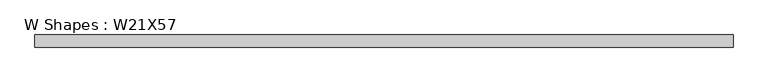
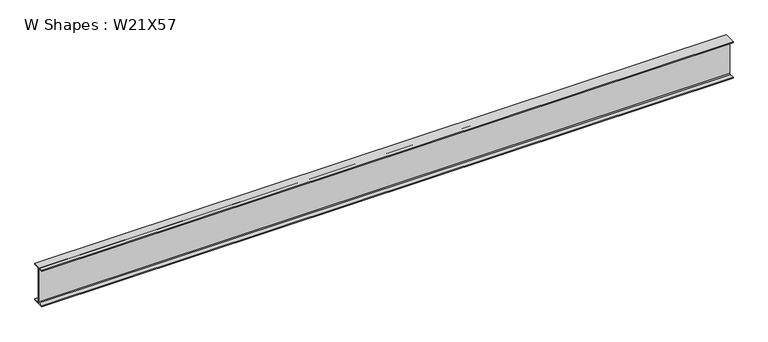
"""IFC4 building model written with IfcOpenShell, lengths in millimetres: beam geometry, W Shapes : W21X57."""

from ifc_helpers import new_model, si_unit, point, frame, frame_2d, origin, place, context, project, spatial, polyline, circle_curve, trimmed, segment, composite_curve, outline, extrude, source, transform, mapped, element, save


def w_shapes_w21x57_8b329244(model_context):
    return source(origin(), model_context, "Body", "SweptSolid", [
        extrude(outline(composite_curve([segment(polyline([(83.312, -251.46), (83.312, -267.97), (-83.312, -267.97), (-83.312, -251.46), (-17.8435, -251.46)]), True, "CONTINUOUS"), segment(trimmed(circle_curve(frame_2d((-17.8435, -238.76)), 12.7), [point((-17.8435, -251.46))], [point((-5.1435, -238.76))], True, "CARTESIAN"), True, "CONTINUOUS"), segment(polyline([(-5.1435, -238.76), (-5.1435, 238.76)]), True, "CONTINUOUS"), segment(trimmed(circle_curve(frame_2d((-17.8435, 238.76)), 12.7), [point((-5.1435, 238.76))], [point((-17.8435, 251.46))], True, "CARTESIAN"), True, "CONTINUOUS"), segment(polyline([(-17.8435, 251.46), (-83.312, 251.46), (-83.312, 267.97), (83.312, 267.97), (83.312, 251.46), (17.8435, 251.46)]), True, "CONTINUOUS"), segment(trimmed(circle_curve(frame_2d((17.8435, 238.76)), 12.7), [point((17.8435, 251.46))], [point((5.1435, 238.76))], True, "CARTESIAN"), True, "CONTINUOUS"), segment(polyline([(5.1435, 238.76), (5.1435, -238.76)]), True, "CONTINUOUS"), segment(trimmed(circle_curve(frame_2d((17.8435, -238.76)), 12.7), [point((5.1435, -238.76))], [point((17.8435, -251.46))], True, "CARTESIAN"), True, "CONTINUOUS"), segment(polyline([(17.8435, -251.46), (83.312, -251.46)]), True, "CONTINUOUS")], self_intersect=False)), frame((-4785.359694, 0.0, 0.0), z_axis=(1.0, 0.0, 0.0), x_axis=(0.0, 1.0, 0.0)), (0.0, 0.0, 1.0), 9570.719388),
    ])


if __name__ == "__main__":
    model = new_model("IFC4")
    model_context = context("Model", 3, world=origin())
    ifc_project = project(units=[si_unit("LENGTHUNIT", "METRE", prefix="MILLI")], contexts=[model_context])
    site = spatial("IfcSite", under=ifc_project)
    building = spatial("IfcBuilding", under=site)
    placement = place(None, origin())
    w_shapes_w21x57_shape = w_shapes_w21x57_8b329244(model_context)
    element("IfcBeam", 1, ObjectType="W Shapes : W21X57", at=placement, inside=building, context=model_context, shape_type="MappedRepresentation", body=[
        mapped(w_shapes_w21x57_shape, transform((0.0, 0.0, 0.0), x_axis=(1.0, 0.0, 0.0), y_axis=(0.0, 1.0, 0.0), z_axis=(0.0, 0.0, 1.0))),
    ])
    save(model, "model.ifc")
